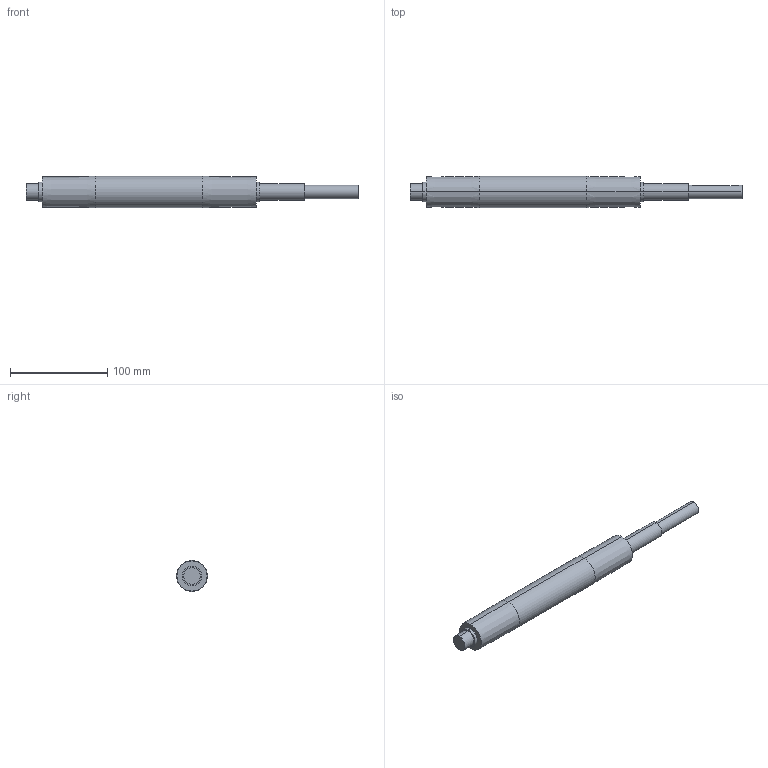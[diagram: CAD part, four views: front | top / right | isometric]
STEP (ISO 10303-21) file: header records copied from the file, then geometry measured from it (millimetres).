
FILE_DESCRIPTION (( 'STEP AP203' ), '1' );
FILE_NAME ('084.801.060.STEP', '2018-03-16T15:22:07', ( '' ), ( '' ), 'SwSTEP 2.0', 'SolidWorks 2016', '' );
FILE_SCHEMA (( 'CONFIG_CONTROL_DESIGN' ));
Length unit declared in the file: millimetre
Products named in the file (1): 084.801.060
Bounding box: 341 x 32 x 32 mm (x, y, z)
Volume: 196469 mm3; surface area: 30597.7 mm2
Topology: 1 solids, 1 shells, 32 faces, 66 edges, 41 vertices
Faces by surface type: cylinder 16, plane 10, cone 6
Entity records: 977 total; most frequent: CARTESIAN_POINT 200, DIRECTION 162, ORIENTED_EDGE 128, AXIS2_PLACEMENT_3D 67, EDGE_CURVE 64, VERTEX_POINT 41, EDGE_LOOP 39, CIRCLE 34
